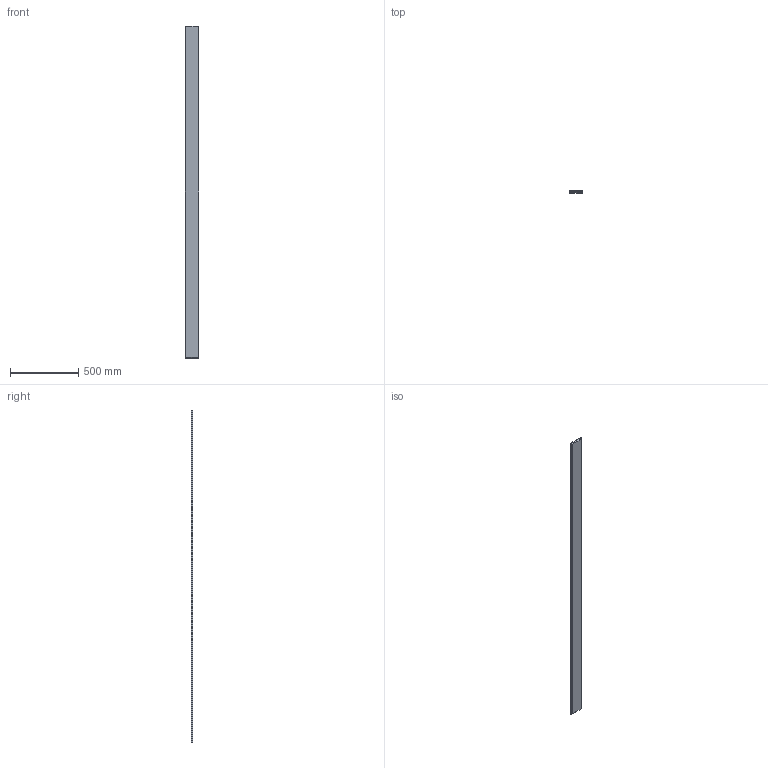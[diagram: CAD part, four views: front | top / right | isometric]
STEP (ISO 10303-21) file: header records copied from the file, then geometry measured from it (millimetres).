
FILE_DESCRIPTION(/* description */ (''),/* implementation_level */ '2;1');
FILE_NAME(/* name */ 'PET PLANQ_Beveled_4x96',/* time_stamp */ '2024-10-31T13:55:32-05:00',/* author */ (''),/* organization */ (''),/* preprocessor_version */ 'ST-DEVELOPER v19.2',/* originating_system */ 'Rhino 8.4',/* authorisation */ '');
FILE_SCHEMA (('CONFIG_CONTROL_DESIGN'));
Length unit declared in the file: inch
Products named in the file (1): Document
Bounding box: 101.6 x 12.7 x 2438.4 mm (x, y, z)
Volume: 3044238.5 mm3; surface area: 541035.8 mm2
Topology: 1 solids, 1 shells, 10 faces, 20 edges, 12 vertices
Faces by surface type: plane 10
Entity records: 310 total; most frequent: CARTESIAN_POINT 64, ORIENTED_EDGE 40, EDGE_CURVE 20, B_SPLINE_CURVE_WITH_KNOTS 20, DIRECTION 14, VERTEX_POINT 12, AXIS2_PLACEMENT_3D 12, ADVANCED_FACE 10
